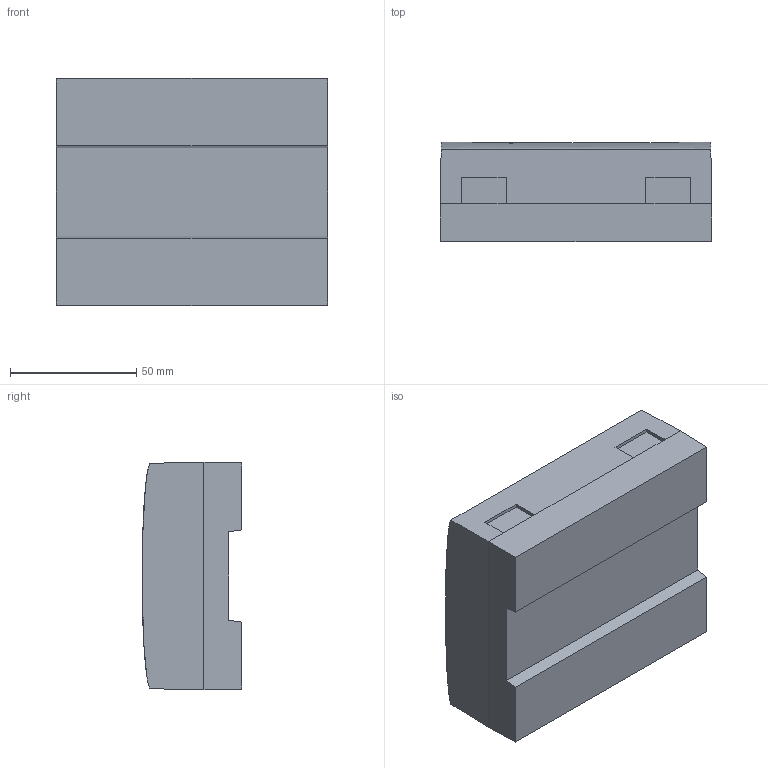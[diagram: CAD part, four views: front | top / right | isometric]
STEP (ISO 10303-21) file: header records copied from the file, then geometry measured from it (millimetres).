
FILE_DESCRIPTION(/* description */ ('STEP AP242','CAx-IF Rec.Pracs.---Representation and Presentation of Product Manufacturing Information (PMI)---4.0---2014-10-13','CAx-IF Rec.Pracs.---3D Tessellated Geometry---0.4---2014-09-14','2;1'),/* implementation_level */ '2;1');
FILE_NAME(/* name */ '6634dcea7859092b1b9c28ce',/* time_stamp */ '2024-05-03T12:47:39Z',/* author */ (''),/* organization */ (''),/* preprocessor_version */ 'ST-DEVELOPER v20',/* originating_system */ ' ',/* authorisation */ ' ');
FILE_SCHEMA (('AP242_MANAGED_MODEL_BASED_3D_ENGINEERING_MIM_LF { 1 0 10303 442 1 1 4 }'));
Length unit declared in the file: metre
Products named in the file (1): XPC
Bounding box: 107.5 x 39.48 x 90 mm (x, y, z)
Volume: 350786.9 mm3; surface area: 34958 mm2
Topology: 1 solids, 1 shells, 54 faces, 125 edges, 78 vertices
Faces by surface type: plane 43, bspline 6, cylinder 5
Full cylindrical faces by diameter (mm): 2.3 x5
Entity records: 1681 total; most frequent: CARTESIAN_POINT 469, ORIENTED_EDGE 240, DIRECTION 206, EDGE_CURVE 120, LINE 108, VECTOR 108, VERTEX_POINT 78, EDGE_LOOP 64
